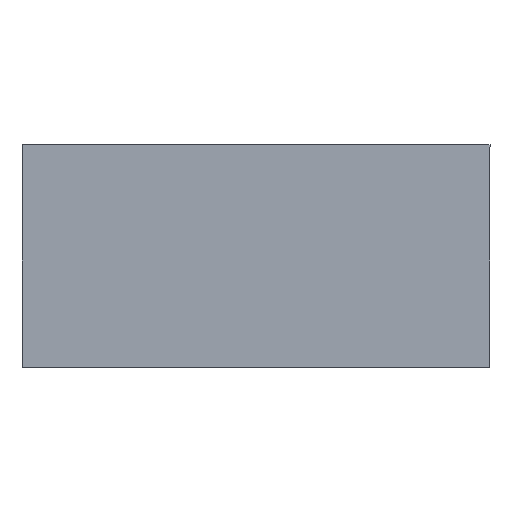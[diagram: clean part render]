
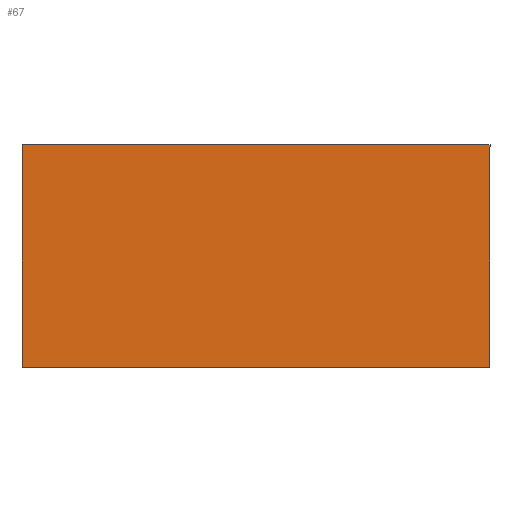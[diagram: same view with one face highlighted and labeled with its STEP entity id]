
A CAD part, top view. The second image highlights one B-rep face of the part: STEP entity #67.
In plain terms, the highlighted planar face has unit normal (0, 0, 1).
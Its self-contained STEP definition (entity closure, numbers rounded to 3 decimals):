
#67 = ADVANCED_FACE ( 'NONE', ( #1467 ), #2795, .T. ) ;
#76 = EDGE_CURVE ( 'NONE', #758, #2163, #3126, .T. ) ;
#108 = VERTEX_POINT ( 'NONE', #967 ) ;
#235 = ORIENTED_EDGE ( 'NONE', *, *, #802, .T. ) ;
#614 = EDGE_CURVE ( 'NONE', #108, #758, #2664, .T. ) ;
#636 = CARTESIAN_POINT ( 'NONE',  ( -1471.735, -1241.62, 730. ) ) ;
#656 = CARTESIAN_POINT ( 'NONE',  ( -3471.735, -1241.62, 730. ) ) ;
#758 = VERTEX_POINT ( 'NONE', #2584 ) ;
#802 = EDGE_CURVE ( 'NONE', #2131, #108, #2076, .T. ) ;
#806 = B_SPLINE_CURVE_WITH_KNOTS ( 'NONE', 1,
 ( #636, #656 ),
 .UNSPECIFIED., .F., .F.,
 ( 2, 2 ),
 ( 2850., 3800. ),
 .UNSPECIFIED. ) ;
#962 = CARTESIAN_POINT ( 'NONE',  ( -1471.735, -2191.62, 730. ) ) ;
#967 = CARTESIAN_POINT ( 'NONE',  ( -3471.735, -2191.62, 730. ) ) ;
#1000 = CARTESIAN_POINT ( 'NONE',  ( -3471.735, -1241.62, 730. ) ) ;
#1006 = ORIENTED_EDGE ( 'NONE', *, *, #614, .T. ) ;
#1024 = EDGE_LOOP ( 'NONE', ( #235, #1006, #1437, #2176 ) ) ;
#1437 = ORIENTED_EDGE ( 'NONE', *, *, #76, .T. ) ;
#1467 = FACE_OUTER_BOUND ( 'NONE', #1024, .T. ) ;
#1503 = DIRECTION ( 'NONE',  ( 0., 0., 1. ) ) ;
#1726 = EDGE_CURVE ( 'NONE', #2163, #2131, #806, .T. ) ;
#1798 = CARTESIAN_POINT ( 'NONE',  ( -3471.735, -2191.62, 730. ) ) ;
#1900 = CARTESIAN_POINT ( 'NONE',  ( -1471.735, -1241.62, 730. ) ) ;
#1982 = CARTESIAN_POINT ( 'NONE',  ( -3471.735, -1241.62, 730. ) ) ;
#2010 = DIRECTION ( 'NONE',  ( 1., 0., 0. ) ) ;
#2076 = B_SPLINE_CURVE_WITH_KNOTS ( 'NONE', 1,
 ( #1982, #1798 ),
 .UNSPECIFIED., .F., .F.,
 ( 2, 2 ),
 ( 0., 950. ),
 .UNSPECIFIED. ) ;
#2131 = VERTEX_POINT ( 'NONE', #3198 ) ;
#2163 = VERTEX_POINT ( 'NONE', #1900 ) ;
#2176 = ORIENTED_EDGE ( 'NONE', *, *, #1726, .T. ) ;
#2542 = CARTESIAN_POINT ( 'NONE',  ( -1471.735, -1241.62, 730. ) ) ;
#2584 = CARTESIAN_POINT ( 'NONE',  ( -1471.735, -2191.62, 730. ) ) ;
#2664 = B_SPLINE_CURVE_WITH_KNOTS ( 'NONE', 1,
 ( #2719, #962 ),
 .UNSPECIFIED., .F., .F.,
 ( 2, 2 ),
 ( 950., 1900. ),
 .UNSPECIFIED. ) ;
#2719 = CARTESIAN_POINT ( 'NONE',  ( -3471.735, -2191.62, 730. ) ) ;
#2795 = PLANE ( 'NONE',  #3233 ) ;
#3126 = B_SPLINE_CURVE_WITH_KNOTS ( 'NONE', 1,
 ( #3228, #2542 ),
 .UNSPECIFIED., .F., .F.,
 ( 2, 2 ),
 ( 1900., 2850. ),
 .UNSPECIFIED. ) ;
#3198 = CARTESIAN_POINT ( 'NONE',  ( -3471.735, -1241.62, 730. ) ) ;
#3228 = CARTESIAN_POINT ( 'NONE',  ( -1471.735, -2191.62, 730. ) ) ;
#3233 = AXIS2_PLACEMENT_3D ( 'NONE', #1000, #1503, #2010 ) ;
